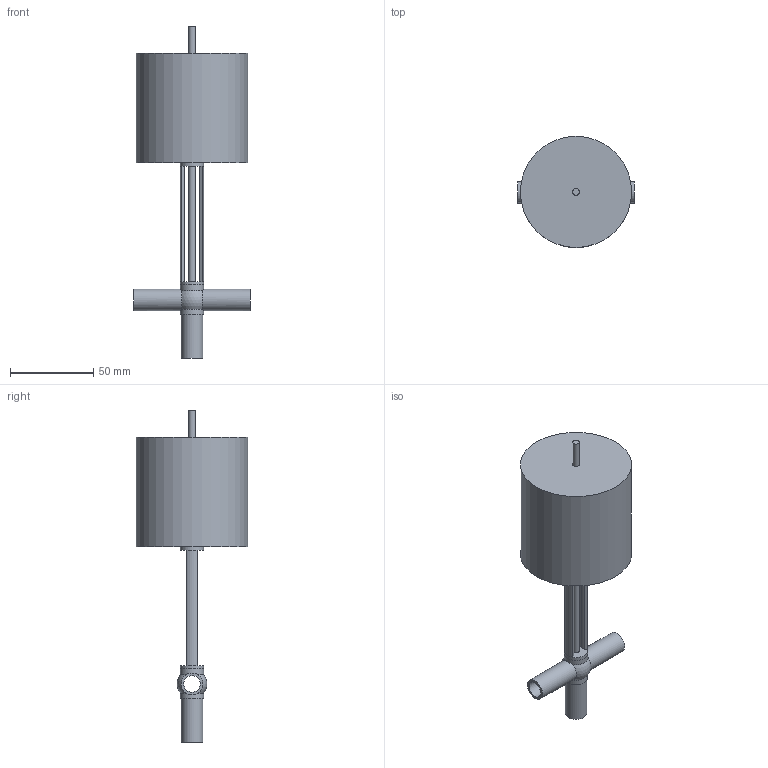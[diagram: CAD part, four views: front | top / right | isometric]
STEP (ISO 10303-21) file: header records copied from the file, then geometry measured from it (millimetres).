
FILE_DESCRIPTION(('FreeCAD Model'),'2;1');
FILE_NAME('/home/martin/Documents/proyect/valves/stp/valve_T_DN-10.step' ,'2018-01-12T21:55:21',('Author'),(''), 'Open CASCADE STEP processor 6.8','FreeCAD','Unknown');
FILE_SCHEMA(('AUTOMOTIVE_DESIGN_CC2 { 1 2 10303 214 -1 1 5 4 }'));
Length unit declared in the file: millimetre
Products named in the file (3): ASSEMBLY; valve_T_DN-10-body; valve_T_DN-10-head
Assembly tree (2 placements, depth 2):
  ASSEMBLY
    valve_T_DN-10-body
    valve_T_DN-10-head
Bounding box: 70 x 67 x 200 mm (x, y, z)
Volume: 241899.4 mm3; surface area: 32305.3 mm2
Topology: 2 solids, 2 shells, 37 faces, 88 edges, 56 vertices
Faces by surface type: cylinder 18, plane 16, sphere 3
Full cylindrical faces by diameter (mm): 4 x2, 10 x3, 13 x3, 14 x4, 67 x1
Entity records: 3232 total; most frequent: CARTESIAN_POINT 1270, DIRECTION 351, ORIENTED_EDGE 174, PCURVE 174, DEFINITIONAL_REPRESENTATION 174, LINE 144, VECTOR 144, AXIS2_PLACEMENT_3D 89
